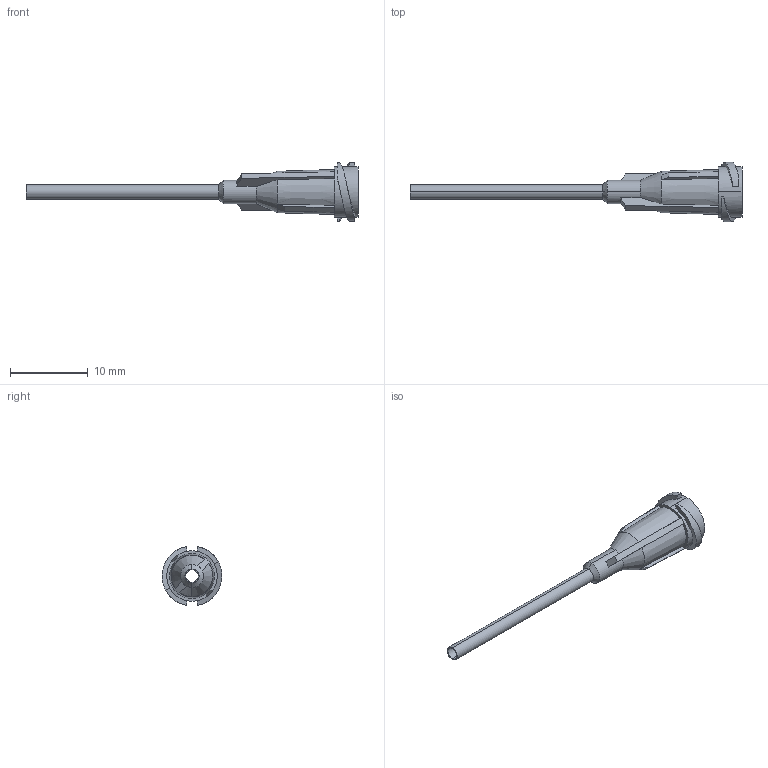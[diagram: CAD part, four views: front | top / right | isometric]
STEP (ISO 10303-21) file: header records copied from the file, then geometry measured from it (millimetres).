
FILE_DESCRIPTION (( 'STEP AP214' ), '1' );
FILE_NAME ('8001095_CUS.STEP', '2022-05-23T11:09:20', ( '' ), ( '' ), 'SwSTEP 2.0', 'SolidWorks 2020', '' );
FILE_SCHEMA (( 'AUTOMOTIVE_DESIGN' ));
Length unit declared in the file: millimetre
Products named in the file (1): 8001095_CUS
Bounding box: 42.77 x 7.7 x 7.59 mm (x, y, z)
Surface area: 834.9 mm2 (no closed solid volume)
Topology: 0 solids, 3 shells, 60 faces, 168 edges, 108 vertices
Faces by surface type: plane 34, cone 12, cylinder 8, bspline 6
Entity records: 2847 total; most frequent: CARTESIAN_POINT 699, ORIENTED_EDGE 306, DIRECTION 298, EDGE_CURVE 168, AXIS2_PLACEMENT_3D 113, VERTEX_POINT 108, LINE 72, VECTOR 72
